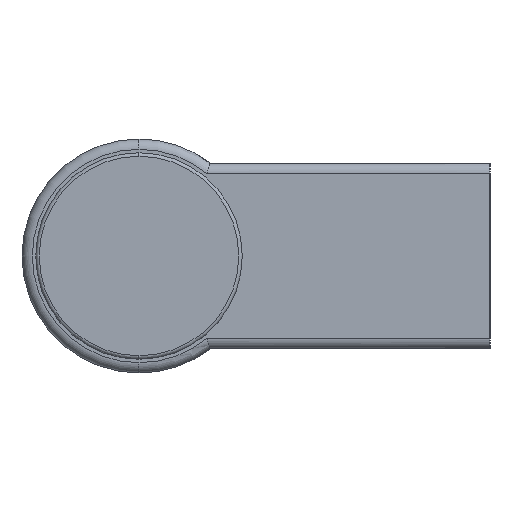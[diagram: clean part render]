
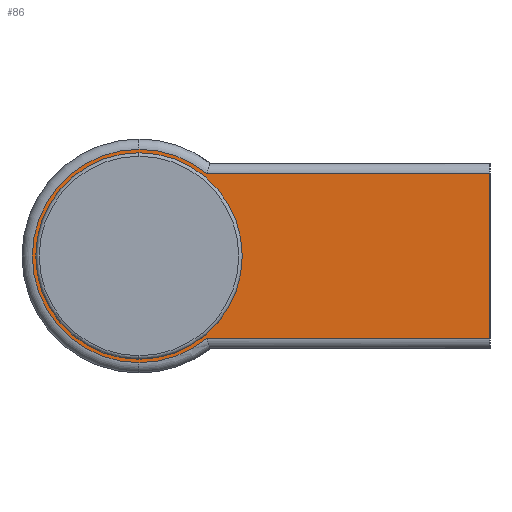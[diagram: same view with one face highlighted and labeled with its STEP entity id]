
A CAD part, left-side view. The second image highlights one B-rep face of the part: STEP entity #86.
In plain terms, the highlighted planar face has unit normal (-1, 0, 0).
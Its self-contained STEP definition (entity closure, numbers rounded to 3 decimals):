
#11 = CARTESIAN_POINT ( 'NONE',  ( -183.5, -9.811, 12. ) ) ;
#44 = CIRCLE ( 'NONE', #154, 15. ) ;
#59 = ORIENTED_EDGE ( 'NONE', *, *, #212, .F. ) ;
#65 = CARTESIAN_POINT ( 'NONE',  ( -183.5, 0., 15. ) ) ;
#75 = VERTEX_POINT ( 'NONE', #1139 ) ;
#82 = DIRECTION ( 'NONE',  ( 0., 0., -1. ) ) ;
#86 = ADVANCED_FACE ( 'NONE', ( #789, #810 ), #654, .T. ) ;
#140 = DIRECTION ( 'NONE',  ( 0., 0., -1. ) ) ;
#154 = AXIS2_PLACEMENT_3D ( 'NONE', #1570, #1537, #82 ) ;
#174 = ORIENTED_EDGE ( 'NONE', *, *, #877, .T. ) ;
#206 = ORIENTED_EDGE ( 'NONE', *, *, #1684, .F. ) ;
#211 = DIRECTION ( 'NONE',  ( 0., 1., 0. ) ) ;
#212 = EDGE_CURVE ( 'NONE', #1854, #1794, #1852, .T. ) ;
#255 = DIRECTION ( 'NONE',  ( 0., 0., -1. ) ) ;
#266 = VECTOR ( 'NONE', #480, 1000. ) ;
#308 = AXIS2_PLACEMENT_3D ( 'NONE', #485, #971, #1774 ) ;
#319 = CARTESIAN_POINT ( 'NONE',  ( -183.5, -9.811, -12. ) ) ;
#321 = ORIENTED_EDGE ( 'NONE', *, *, #857, .F. ) ;
#338 = VECTOR ( 'NONE', #211, 1000. ) ;
#344 = AXIS2_PLACEMENT_3D ( 'NONE', #803, #1124, #1327 ) ;
#353 = LINE ( 'NONE', #1280, #266 ) ;
#354 = DIRECTION ( 'NONE',  ( 0., 0., -1. ) ) ;
#382 = VERTEX_POINT ( 'NONE', #11 ) ;
#403 = VERTEX_POINT ( 'NONE', #504 ) ;
#480 = DIRECTION ( 'NONE',  ( 0., -1., 0. ) ) ;
#485 = CARTESIAN_POINT ( 'NONE',  ( -183.5, 0., 0. ) ) ;
#504 = CARTESIAN_POINT ( 'NONE',  ( -183.5, 0., 15.5 ) ) ;
#580 = CARTESIAN_POINT ( 'NONE',  ( -183.5, -51., -13.5 ) ) ;
#600 = CARTESIAN_POINT ( 'NONE',  ( -183.5, 0., 0. ) ) ;
#642 = EDGE_CURVE ( 'NONE', #75, #1854, #1086, .T. ) ;
#654 = PLANE ( 'NONE',  #1663 ) ;
#680 = VERTEX_POINT ( 'NONE', #763 ) ;
#744 = EDGE_LOOP ( 'NONE', ( #174, #1967 ) ) ;
#749 = CIRCLE ( 'NONE', #1945, 15.5 ) ;
#763 = CARTESIAN_POINT ( 'NONE',  ( -183.5, 0., -15.5 ) ) ;
#789 = FACE_OUTER_BOUND ( 'NONE', #879, .T. ) ;
#803 = CARTESIAN_POINT ( 'NONE',  ( -183.5, 0., 0. ) ) ;
#810 = FACE_BOUND ( 'NONE', #744, .T. ) ;
#837 = CIRCLE ( 'NONE', #308, 15.5 ) ;
#857 = EDGE_CURVE ( 'NONE', #403, #382, #837, .T. ) ;
#877 = EDGE_CURVE ( 'NONE', #1024, #1380, #1897, .T. ) ;
#879 = EDGE_LOOP ( 'NONE', ( #952, #1768, #321, #1066, #206, #59 ) ) ;
#952 = ORIENTED_EDGE ( 'NONE', *, *, #642, .F. ) ;
#971 = DIRECTION ( 'NONE',  ( 1., 0., 0. ) ) ;
#983 = DIRECTION ( 'NONE',  ( 1., 0., 0. ) ) ;
#996 = AXIS2_PLACEMENT_3D ( 'NONE', #1773, #983, #140 ) ;
#1021 = CARTESIAN_POINT ( 'NONE',  ( -183.5, 0., -15. ) ) ;
#1024 = VERTEX_POINT ( 'NONE', #1021 ) ;
#1049 = CARTESIAN_POINT ( 'NONE',  ( -183.5, -51., -12. ) ) ;
#1066 = ORIENTED_EDGE ( 'NONE', *, *, #1649, .F. ) ;
#1068 = DIRECTION ( 'NONE',  ( 0., 0., -1. ) ) ;
#1086 = LINE ( 'NONE', #580, #1563 ) ;
#1124 = DIRECTION ( 'NONE',  ( 1., 0., 0. ) ) ;
#1139 = CARTESIAN_POINT ( 'NONE',  ( -183.5, -51., 12. ) ) ;
#1271 = EDGE_CURVE ( 'NONE', #382, #75, #353, .T. ) ;
#1280 = CARTESIAN_POINT ( 'NONE',  ( -183.5, 0., 12. ) ) ;
#1327 = DIRECTION ( 'NONE',  ( 0., 0., -1. ) ) ;
#1380 = VERTEX_POINT ( 'NONE', #65 ) ;
#1395 = DIRECTION ( 'NONE',  ( 1., 0., 0. ) ) ;
#1495 = EDGE_CURVE ( 'NONE', #1380, #1024, #44, .T. ) ;
#1526 = CARTESIAN_POINT ( 'NONE',  ( -183.5, 0., -12. ) ) ;
#1537 = DIRECTION ( 'NONE',  ( 1., 0., 0. ) ) ;
#1563 = VECTOR ( 'NONE', #255, 1000. ) ;
#1570 = CARTESIAN_POINT ( 'NONE',  ( -183.5, 0., 0. ) ) ;
#1649 = EDGE_CURVE ( 'NONE', #680, #403, #749, .T. ) ;
#1663 = AXIS2_PLACEMENT_3D ( 'NONE', #1809, #1954, #354 ) ;
#1684 = EDGE_CURVE ( 'NONE', #1794, #680, #1914, .T. ) ;
#1768 = ORIENTED_EDGE ( 'NONE', *, *, #1271, .F. ) ;
#1773 = CARTESIAN_POINT ( 'NONE',  ( -183.5, 0., 0. ) ) ;
#1774 = DIRECTION ( 'NONE',  ( 0., 0., -1. ) ) ;
#1794 = VERTEX_POINT ( 'NONE', #319 ) ;
#1809 = CARTESIAN_POINT ( 'NONE',  ( -183.5, 0., 0. ) ) ;
#1852 = LINE ( 'NONE', #1526, #338 ) ;
#1854 = VERTEX_POINT ( 'NONE', #1049 ) ;
#1897 = CIRCLE ( 'NONE', #344, 15. ) ;
#1914 = CIRCLE ( 'NONE', #996, 15.5 ) ;
#1945 = AXIS2_PLACEMENT_3D ( 'NONE', #600, #1395, #1068 ) ;
#1954 = DIRECTION ( 'NONE',  ( -1., 0., 0. ) ) ;
#1967 = ORIENTED_EDGE ( 'NONE', *, *, #1495, .T. ) ;
